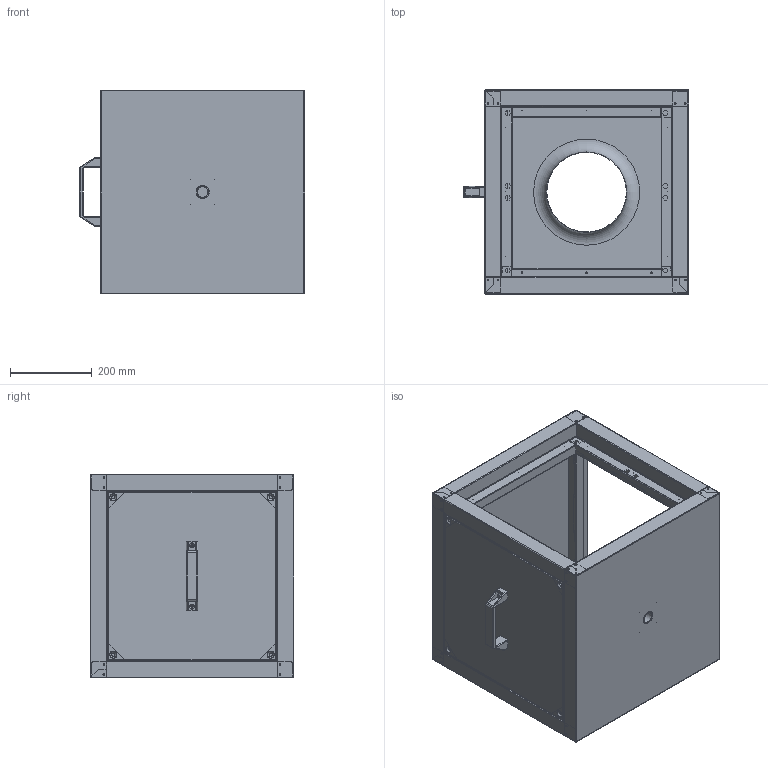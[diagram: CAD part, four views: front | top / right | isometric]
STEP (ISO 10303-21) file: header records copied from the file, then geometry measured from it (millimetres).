
FILE_DESCRIPTION (( 'STEP AP203' ), '1' );
FILE_NAME ('149264-00_MPC315ECT30_step.step', '2018-10-24T09:42:28', ( '' ), ( '' ), 'SwSTEP 2.0', 'SolidWorks 2017', '' );
FILE_SCHEMA (( 'CONFIG_CONTROL_DESIGN' ));
Length unit declared in the file: millimetre
Products named in the file (1): 149264-00_MPC315ECT30_step
Bounding box: 552 x 500 x 500 mm (x, y, z)
Surface area: 3277004 mm2 (no closed solid volume)
Topology: 0 solids, 102 shells, 673 faces, 3358 edges, 2745 vertices
Faces by surface type: plane 360, cylinder 272, bspline 16, cone 15, torus 10
Full cylindrical faces by diameter (mm): 0.65 x3, 3.2 x4, 4.2 x82, 4.5 x11, 5.1 x2, 26 x1, 31.5 x1, 32 x2, 195 x1, 197 x1
Entity records: 33554 total; most frequent: CARTESIAN_POINT 7522, DIRECTION 5242, ORIENTED_EDGE 3929, EDGE_CURVE 3209, VERTEX_POINT 2729, LINE 2220, VECTOR 2220, AXIS2_PLACEMENT_3D 1511
